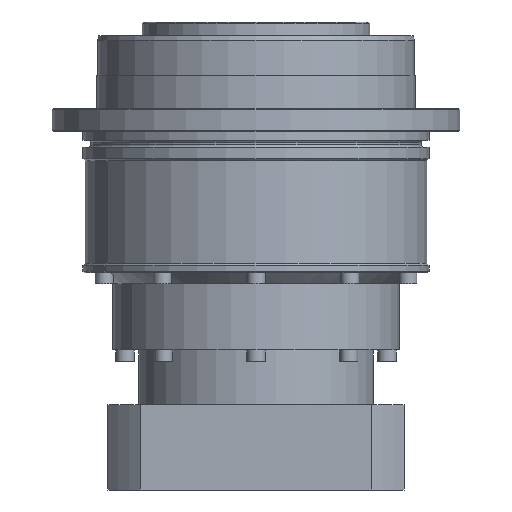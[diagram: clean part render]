
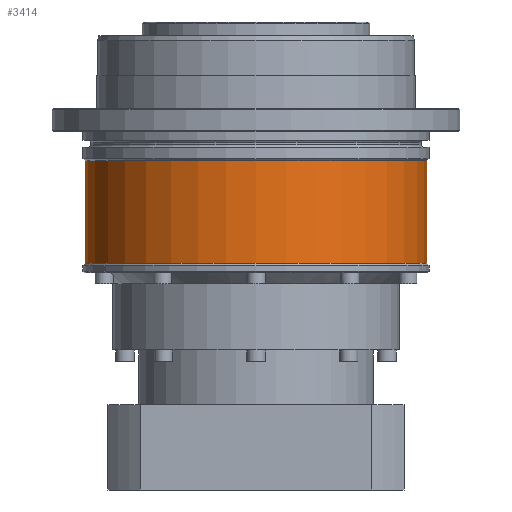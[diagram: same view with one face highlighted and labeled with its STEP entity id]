
A CAD part, front view. The second image highlights one B-rep face of the part: STEP entity #3414.
In plain terms, the highlighted cylindrical face has radius 75 mm (diameter 150 mm), a partial arc.
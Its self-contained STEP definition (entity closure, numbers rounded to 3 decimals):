
#604 = CARTESIAN_POINT ( 'NONE',  ( -75., 0., -100. ) ) ;
#2108 = VERTEX_POINT ( 'NONE', #3227 ) ;
#2126 = DIRECTION ( 'NONE',  ( 0., 0., 1. ) ) ;
#2211 = AXIS2_PLACEMENT_3D ( 'NONE', #7099, #12228, #5808 ) ;
#2428 = VECTOR ( 'NONE', #2126, 1000. ) ;
#2767 = LINE ( 'NONE', #5505, #16061 ) ;
#2822 = EDGE_CURVE ( 'NONE', #3420, #13058, #9331, .T. ) ;
#2852 = CARTESIAN_POINT ( 'NONE',  ( 0., 0., -100. ) ) ;
#3227 = CARTESIAN_POINT ( 'NONE',  ( 75., 0., -54.97 ) ) ;
#3414 = ADVANCED_FACE ( 'NONE', ( #7532 ), #14020, .T. ) ;
#3420 = VERTEX_POINT ( 'NONE', #604 ) ;
#4116 = EDGE_CURVE ( 'NONE', #2108, #13058, #11144, .T. ) ;
#4179 = DIRECTION ( 'NONE',  ( -1., 0., 0. ) ) ;
#4828 = ORIENTED_EDGE ( 'NONE', *, *, #6294, .F. ) ;
#5505 = CARTESIAN_POINT ( 'NONE',  ( 75., 0., -100. ) ) ;
#5642 = AXIS2_PLACEMENT_3D ( 'NONE', #2852, #11912, #4179 ) ;
#5808 = DIRECTION ( 'NONE',  ( 1., 0., 0. ) ) ;
#6294 = EDGE_CURVE ( 'NONE', #15132, #3420, #11274, .T. ) ;
#6688 = CARTESIAN_POINT ( 'NONE',  ( 0., 0., -54.97 ) ) ;
#6780 = DIRECTION ( 'NONE',  ( 0., 0., 1. ) ) ;
#7099 = CARTESIAN_POINT ( 'NONE',  ( 0., 0., -100. ) ) ;
#7212 = ORIENTED_EDGE ( 'NONE', *, *, #4116, .T. ) ;
#7532 = FACE_OUTER_BOUND ( 'NONE', #8943, .T. ) ;
#7985 = DIRECTION ( 'NONE',  ( -1., 0., 0. ) ) ;
#8838 = ORIENTED_EDGE ( 'NONE', *, *, #12721, .T. ) ;
#8943 = EDGE_LOOP ( 'NONE', ( #14895, #4828, #8838, #7212 ) ) ;
#9331 = LINE ( 'NONE', #9898, #2428 ) ;
#9898 = CARTESIAN_POINT ( 'NONE',  ( -75., 0., -100. ) ) ;
#11119 = AXIS2_PLACEMENT_3D ( 'NONE', #6688, #15654, #7985 ) ;
#11144 = CIRCLE ( 'NONE', #11119, 75. ) ;
#11274 = CIRCLE ( 'NONE', #5642, 75. ) ;
#11912 = DIRECTION ( 'NONE',  ( 0., 0., -1. ) ) ;
#12228 = DIRECTION ( 'NONE',  ( 0., 0., 1. ) ) ;
#12718 = CARTESIAN_POINT ( 'NONE',  ( -75., 0., -54.97 ) ) ;
#12721 = EDGE_CURVE ( 'NONE', #15132, #2108, #2767, .T. ) ;
#13058 = VERTEX_POINT ( 'NONE', #12718 ) ;
#13284 = CARTESIAN_POINT ( 'NONE',  ( 75., 0., -100. ) ) ;
#14020 = CYLINDRICAL_SURFACE ( 'NONE', #2211, 75. ) ;
#14895 = ORIENTED_EDGE ( 'NONE', *, *, #2822, .F. ) ;
#15132 = VERTEX_POINT ( 'NONE', #13284 ) ;
#15654 = DIRECTION ( 'NONE',  ( 0., 0., -1. ) ) ;
#16061 = VECTOR ( 'NONE', #6780, 1000. ) ;
